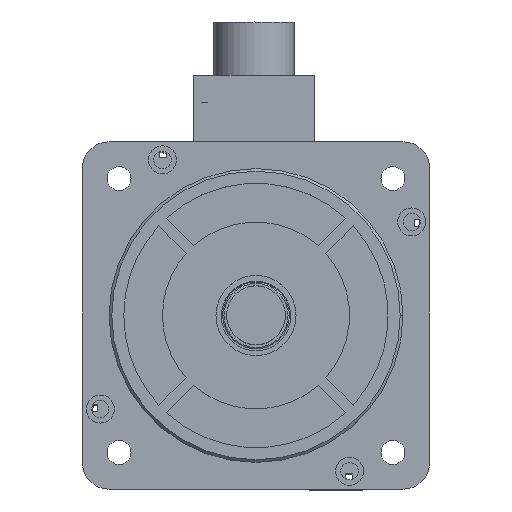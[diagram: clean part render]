
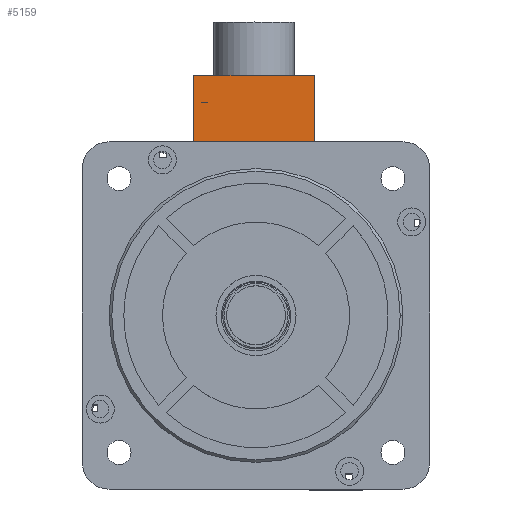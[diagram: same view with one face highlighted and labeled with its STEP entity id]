
A CAD part, top view. The second image highlights one B-rep face of the part: STEP entity #5159.
In plain terms, the highlighted planar face has unit normal (0, 0, 1) as drawn and (0, -1, 0) by its records, which use the part's own axes.
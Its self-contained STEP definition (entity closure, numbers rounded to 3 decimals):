
#396 = LINE ( 'NONE', #16395, #24700 ) ;
#439 = ORIENTED_EDGE ( 'NONE', *, *, #11643, .F. ) ;
#703 = VECTOR ( 'NONE', #22542, 1000. ) ;
#945 = ORIENTED_EDGE ( 'NONE', *, *, #11495, .T. ) ;
#1605 = VERTEX_POINT ( 'NONE', #5220 ) ;
#2135 = ORIENTED_EDGE ( 'NONE', *, *, #3380, .T. ) ;
#2916 = CARTESIAN_POINT ( 'NONE',  ( 0., 0., 0. ) ) ;
#3380 = EDGE_CURVE ( 'NONE', #1605, #13130, #396, .T. ) ;
#4151 = ORIENTED_EDGE ( 'NONE', *, *, #22690, .F. ) ;
#4581 = CARTESIAN_POINT ( 'NONE',  ( 0., 0., 0. ) ) ;
#4973 = VECTOR ( 'NONE', #24727, 1000. ) ;
#5037 = AXIS2_PLACEMENT_3D ( 'NONE', #16711, #14577, #14666 ) ;
#5159 = ADVANCED_FACE ( 'NONE', ( #23034 ), #6258, .T. ) ;
#5220 = CARTESIAN_POINT ( 'NONE',  ( 45., 0., -25. ) ) ;
#6111 = VERTEX_POINT ( 'NONE', #2916 ) ;
#6258 = PLANE ( 'NONE',  #5037 ) ;
#10773 = DIRECTION ( 'NONE',  ( 0., 0., 1. ) ) ;
#11495 = EDGE_CURVE ( 'NONE', #15705, #1605, #13562, .T. ) ;
#11643 = EDGE_CURVE ( 'NONE', #15705, #6111, #18326, .T. ) ;
#12296 = CARTESIAN_POINT ( 'NONE',  ( 0., 0., -25. ) ) ;
#13130 = VERTEX_POINT ( 'NONE', #26441 ) ;
#13562 = LINE ( 'NONE', #12296, #703 ) ;
#14201 = CARTESIAN_POINT ( 'NONE',  ( 0., 0., -25. ) ) ;
#14577 = DIRECTION ( 'NONE',  ( 0., -1., 0. ) ) ;
#14666 = DIRECTION ( 'NONE',  ( 0., 0., -1. ) ) ;
#15705 = VERTEX_POINT ( 'NONE', #14201 ) ;
#15854 = LINE ( 'NONE', #4581, #4973 ) ;
#16395 = CARTESIAN_POINT ( 'NONE',  ( 45., 0., -25. ) ) ;
#16711 = CARTESIAN_POINT ( 'NONE',  ( 0., 0., -25. ) ) ;
#18326 = LINE ( 'NONE', #20923, #19911 ) ;
#19911 = VECTOR ( 'NONE', #10773, 1000. ) ;
#20923 = CARTESIAN_POINT ( 'NONE',  ( 0., 0., -25. ) ) ;
#22542 = DIRECTION ( 'NONE',  ( 1., 0., 0. ) ) ;
#22690 = EDGE_CURVE ( 'NONE', #6111, #13130, #15854, .T. ) ;
#23034 = FACE_OUTER_BOUND ( 'NONE', #25242, .T. ) ;
#24700 = VECTOR ( 'NONE', #25896, 1000. ) ;
#24727 = DIRECTION ( 'NONE',  ( 1., 0., 0. ) ) ;
#25242 = EDGE_LOOP ( 'NONE', ( #4151, #439, #945, #2135 ) ) ;
#25896 = DIRECTION ( 'NONE',  ( 0., 0., 1. ) ) ;
#26441 = CARTESIAN_POINT ( 'NONE',  ( 45., 0., 0. ) ) ;
